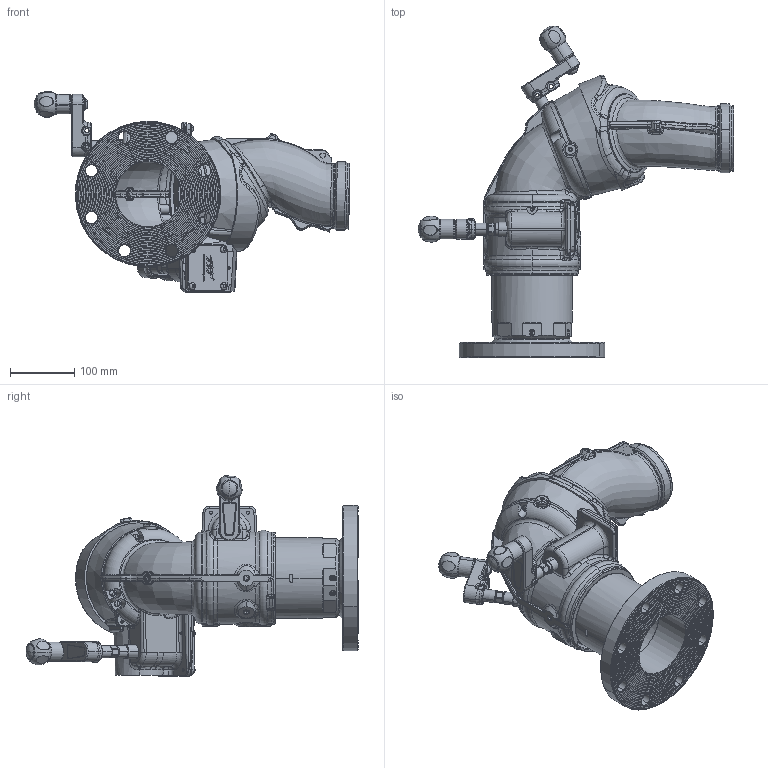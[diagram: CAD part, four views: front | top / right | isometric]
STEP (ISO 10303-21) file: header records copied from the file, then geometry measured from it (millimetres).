
FILE_DESCRIPTION (( 'STEP AP203' ), '1' );
FILE_NAME ('Y4-M21A-Z_Horizontal.STEP', '2014-07-03T18:05:01', ( '' ), ( '' ), 'SwSTEP 2.0', 'SolidWorks 2014', '' );
FILE_SCHEMA (( 'CONFIG_CONTROL_DESIGN' ));
Length unit declared in the file: inch
Products named in the file (1): Y4-M21A-Z_Horizontal
Bounding box: 490.2 x 515.31 x 311.49 mm (x, y, z)
Surface area: 676070.3 mm2 (no closed solid volume)
Topology: 0 solids, 94 shells, 1956 faces, 6348 edges, 4354 vertices
Faces by surface type: plane 486, bspline 449, torus 390, cylinder 390, cone 218, sphere 23
Entity records: 122124 total; most frequent: CARTESIAN_POINT 71692, ORIENTED_EDGE 10569, DIRECTION 9362, EDGE_CURVE 6320, VERTEX_POINT 4348, AXIS2_PLACEMENT_3D 3624, EDGE_LOOP 2170, CIRCLE 2116
